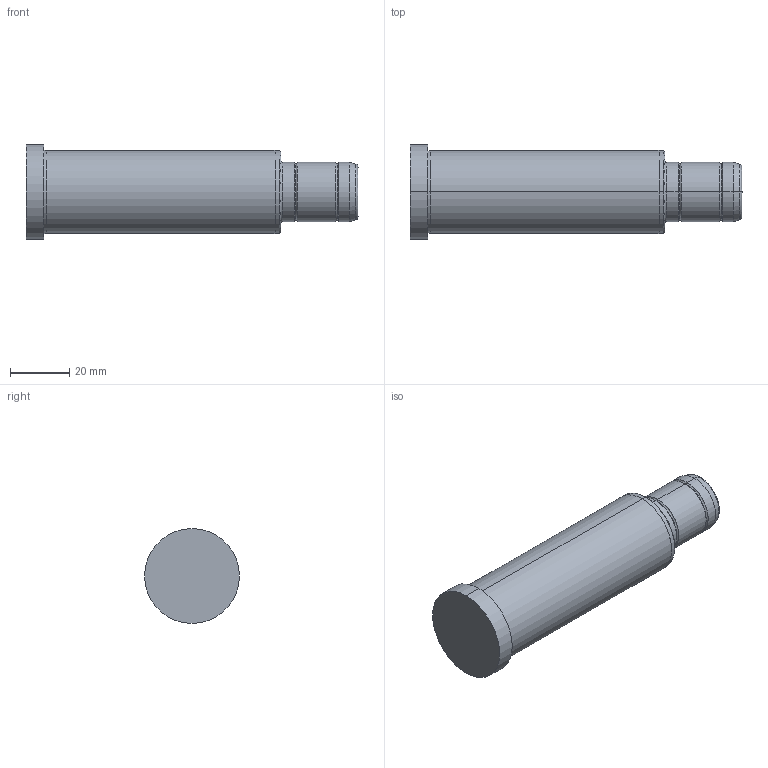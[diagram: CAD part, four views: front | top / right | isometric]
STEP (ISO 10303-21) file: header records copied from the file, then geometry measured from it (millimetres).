
FILE_DESCRIPTION( ( 'STEP AP203' ), '1' );
FILE_NAME( 'C:/Projects/D02 - 20x86x26.step', '2003-01-04T13:49:14', ( ' ' ), ( ' ' ), 'XStep 1.0', ' ', ' ' );
FILE_SCHEMA( ( 'CONFIG_CONTROL_DESIGN' ) );
Length unit declared in the file: metre
Products named in the file (1): 1
Bounding box: 112 x 32 x 32 mm (x, y, z)
Volume: 62185.6 mm3; surface area: 10852.1 mm2
Topology: 1 solids, 1 shells, 36 faces, 70 edges, 40 vertices
Faces by surface type: bspline 18, revolution 18
Entity records: 1127 total; most frequent: CARTESIAN_POINT 417, ORIENTED_EDGE 140, DIRECTION 118, EDGE_CURVE 70, AXIS2_PLACEMENT_3D 41, EDGE_LOOP 40, VERTEX_POINT 40, CIRCLE 40
